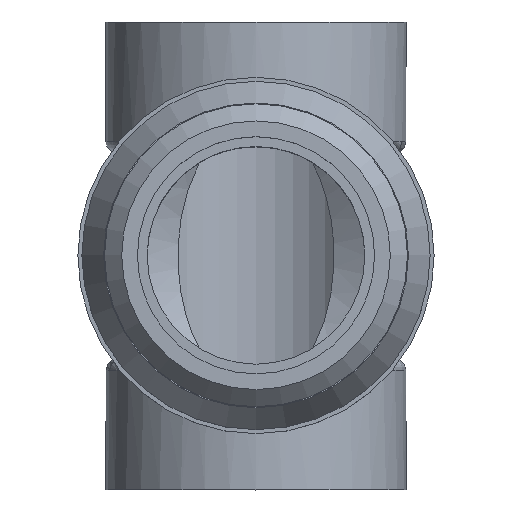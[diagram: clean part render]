
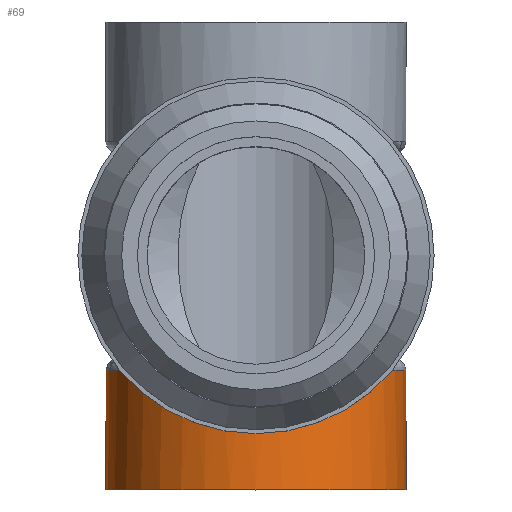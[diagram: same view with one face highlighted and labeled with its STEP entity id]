
A CAD part, top view. The second image highlights one B-rep face of the part: STEP entity #69.
In plain terms, the highlighted cylindrical face has radius 13.1 mm (diameter 26.2 mm), a full revolution.
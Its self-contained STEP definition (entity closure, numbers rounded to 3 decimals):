
#69=ADVANCED_FACE('',(#497,#499),#501,.T.);
#497=FACE_BOUND('',#498,.T.);
#498=EDGE_LOOP('',(#2106,#2107,#2108));
#499=FACE_OUTER_BOUND('',#500,.T.);
#500=EDGE_LOOP('',(#2109));
#501=CYLINDRICAL_SURFACE('',#502,13.1);
#502=AXIS2_PLACEMENT_3D('',#503,#504,#505);
#503=CARTESIAN_POINT('',(0.,-9.4,0.));
#504=DIRECTION('',(0.,-1.,0.));
#505=DIRECTION('',(0.,0.,1.));
#2106=ORIENTED_EDGE('',*,*,#3407,.F.);
#2107=ORIENTED_EDGE('',*,*,#3406,.F.);
#2108=ORIENTED_EDGE('',*,*,#3597,.T.);
#2109=ORIENTED_EDGE('',*,*,#3598,.F.);
#3406=EDGE_CURVE('',#4044,#4046,#4047,.F.);
#3407=EDGE_CURVE('',#4046,#4048,#4049,.F.);
#3597=EDGE_CURVE('',#4044,#4048,#4417,.T.);
#3598=EDGE_CURVE('',#4418,#4418,#4419,.T.);
#4044=VERTEX_POINT('',#5380);
#4046=VERTEX_POINT('',#5393);
#4047=B_SPLINE_CURVE_WITH_KNOTS('',3,
(#5394,#5395,#5396,#5397,#5398,#5399,#5400,#5401,#5402,#5403,#5404,#5405,#5406,#5407,
#5408,#5409,#5410,#5411,#5412,#5413,#5414,#5415,#5416,#5417,#5418,#5419,#5420,#5421,
#5422,#5423,#5424,#5425,#5426,#5427,#5428,#5429,#5430,#5431,#5432,#5433,#5434),
.UNSPECIFIED.,.F.,.F.,
(4,1,1,1,1,1,1,1,1,1,1,1,1,1,1,1,1,1,1,1,1,1,1,1,1,1,1,1,1,1,1,1,1,1,1,1,1,1,4),
(0.,0.027,0.054,0.081,0.108,0.135,
0.162,0.189,0.216,0.243,0.27,
0.297,0.324,0.351,0.387,0.423,
0.46,0.487,0.513,0.54,0.566,
0.593,0.618,0.644,0.669,0.694,
0.718,0.742,0.766,0.789,0.811,
0.84,0.869,0.898,0.918,0.939,
0.96,0.98,1.),
.UNSPECIFIED.);
#4048=VERTEX_POINT('',#5435);
#4049=B_SPLINE_CURVE_WITH_KNOTS('',3,
(#5436,#5437,#5438,#5439,#5440,#5441,#5442,#5443,#5444,#5445,#5446,#5447,#5448,#5449,
#5450,#5451,#5452,#5453,#5454,#5455,#5456,#5457,#5458,#5459,#5460,#5461,#5462,#5463,
#5464,#5465,#5466,#5467,#5468,#5469,#5470,#5471,#5472,#5473,#5474),
.UNSPECIFIED.,.F.,.F.,
(4,1,1,1,1,1,1,1,1,1,1,1,1,1,1,1,1,1,1,1,1,1,1,1,1,1,1,1,1,1,1,1,1,1,1,1,4),
(0.,0.015,0.031,0.048,0.066,
0.085,0.109,0.136,0.177,0.231,
0.282,0.32,0.345,0.368,0.394,
0.423,0.464,0.507,0.549,0.579,
0.607,0.632,0.656,0.681,0.705,
0.737,0.768,0.799,0.822,0.845,
0.868,0.89,0.912,0.934,0.956,
0.978,1.),
.UNSPECIFIED.);
#4417=CIRCLE('',#7421,13.1);
#4418=VERTEX_POINT('',#7425);
#4419=CIRCLE('',#7426,13.1);
#5380=CARTESIAN_POINT('',(-6.3,-9.977,11.486));
#5393=CARTESIAN_POINT('',(0.,-11.8,13.1));
#5394=CARTESIAN_POINT('',(0.,-11.8,13.1));
#5395=CARTESIAN_POINT('',(-0.062,-11.8,13.1));
#5396=CARTESIAN_POINT('',(-0.187,-11.799,13.099));
#5397=CARTESIAN_POINT('',(-0.373,-11.795,13.095));
#5398=CARTESIAN_POINT('',(-0.559,-11.787,13.089));
#5399=CARTESIAN_POINT('',(-0.745,-11.777,13.079));
#5400=CARTESIAN_POINT('',(-0.93,-11.764,13.067));
#5401=CARTESIAN_POINT('',(-1.114,-11.748,13.053));
#5402=CARTESIAN_POINT('',(-1.299,-11.729,13.036));
#5403=CARTESIAN_POINT('',(-1.482,-11.707,13.016));
#5404=CARTESIAN_POINT('',(-1.666,-11.682,12.994));
#5405=CARTESIAN_POINT('',(-1.848,-11.655,12.969));
#5406=CARTESIAN_POINT('',(-2.03,-11.625,12.942));
#5407=CARTESIAN_POINT('',(-2.211,-11.591,12.912));
#5408=CARTESIAN_POINT('',(-2.412,-11.552,12.877));
#5409=CARTESIAN_POINT('',(-2.631,-11.504,12.834));
#5410=CARTESIAN_POINT('',(-2.868,-11.447,12.783));
#5411=CARTESIAN_POINT('',(-3.084,-11.391,12.732));
#5412=CARTESIAN_POINT('',(-3.277,-11.336,12.684));
#5413=CARTESIAN_POINT('',(-3.449,-11.285,12.638));
#5414=CARTESIAN_POINT('',(-3.618,-11.232,12.591));
#5415=CARTESIAN_POINT('',(-3.785,-11.177,12.542));
#5416=CARTESIAN_POINT('',(-3.948,-11.12,12.491));
#5417=CARTESIAN_POINT('',(-4.108,-11.062,12.44));
#5418=CARTESIAN_POINT('',(-4.265,-11.003,12.387));
#5419=CARTESIAN_POINT('',(-4.419,-10.942,12.333));
#5420=CARTESIAN_POINT('',(-4.569,-10.88,12.278));
#5421=CARTESIAN_POINT('',(-4.715,-10.818,12.222));
#5422=CARTESIAN_POINT('',(-4.857,-10.755,12.167));
#5423=CARTESIAN_POINT('',(-4.994,-10.691,12.111));
#5424=CARTESIAN_POINT('',(-5.128,-10.628,12.055));
#5425=CARTESIAN_POINT('',(-5.271,-10.558,11.993));
#5426=CARTESIAN_POINT('',(-5.425,-10.48,11.925));
#5427=CARTESIAN_POINT('',(-5.587,-10.394,11.849));
#5428=CARTESIAN_POINT('',(-5.732,-10.315,11.78));
#5429=CARTESIAN_POINT('',(-5.861,-10.242,11.716));
#5430=CARTESIAN_POINT('',(-5.973,-10.177,11.659));
#5431=CARTESIAN_POINT('',(-6.084,-10.111,11.602));
#5432=CARTESIAN_POINT('',(-6.193,-10.045,11.544));
#5433=CARTESIAN_POINT('',(-6.265,-10.,11.505));
#5434=CARTESIAN_POINT('',(-6.3,-9.977,11.486));
#5435=CARTESIAN_POINT('',(6.3,-9.977,11.486));
#5436=CARTESIAN_POINT('',(6.3,-9.977,11.486));
#5437=CARTESIAN_POINT('',(6.273,-9.994,11.5));
#5438=CARTESIAN_POINT('',(6.218,-10.029,11.53));
#5439=CARTESIAN_POINT('',(6.132,-10.082,11.576));
#5440=CARTESIAN_POINT('',(6.04,-10.137,11.624));
#5441=CARTESIAN_POINT('',(5.943,-10.195,11.675));
#5442=CARTESIAN_POINT('',(5.832,-10.258,11.731));
#5443=CARTESIAN_POINT('',(5.704,-10.33,11.793));
#5444=CARTESIAN_POINT('',(5.533,-10.423,11.875));
#5445=CARTESIAN_POINT('',(5.302,-10.543,11.98));
#5446=CARTESIAN_POINT('',(5.02,-10.681,12.101));
#5447=CARTESIAN_POINT('',(4.739,-10.808,12.214));
#5448=CARTESIAN_POINT('',(4.511,-10.904,12.299));
#5449=CARTESIAN_POINT('',(4.336,-10.975,12.362));
#5450=CARTESIAN_POINT('',(4.185,-11.033,12.414));
#5451=CARTESIAN_POINT('',(4.025,-11.093,12.467));
#5452=CARTESIAN_POINT('',(3.826,-11.163,12.53));
#5453=CARTESIAN_POINT('',(3.59,-11.242,12.6));
#5454=CARTESIAN_POINT('',(3.32,-11.324,12.673));
#5455=CARTESIAN_POINT('',(3.072,-11.394,12.735));
#5456=CARTESIAN_POINT('',(2.855,-11.45,12.786));
#5457=CARTESIAN_POINT('',(2.675,-11.493,12.824));
#5458=CARTESIAN_POINT('',(2.506,-11.531,12.858));
#5459=CARTESIAN_POINT('',(2.343,-11.565,12.889));
#5460=CARTESIAN_POINT('',(2.18,-11.597,12.918));
#5461=CARTESIAN_POINT('',(2.,-11.63,12.947));
#5462=CARTESIAN_POINT('',(1.804,-11.662,12.976));
#5463=CARTESIAN_POINT('',(1.591,-11.693,13.004));
#5464=CARTESIAN_POINT('',(1.397,-11.718,13.026));
#5465=CARTESIAN_POINT('',(1.222,-11.737,13.043));
#5466=CARTESIAN_POINT('',(1.066,-11.752,13.057));
#5467=CARTESIAN_POINT('',(0.911,-11.765,13.069));
#5468=CARTESIAN_POINT('',(0.758,-11.776,13.078));
#5469=CARTESIAN_POINT('',(0.605,-11.785,13.086));
#5470=CARTESIAN_POINT('',(0.453,-11.792,13.092));
#5471=CARTESIAN_POINT('',(0.301,-11.796,13.097));
#5472=CARTESIAN_POINT('',(0.151,-11.799,13.099));
#5473=CARTESIAN_POINT('',(0.05,-11.8,13.1));
#5474=CARTESIAN_POINT('',(0.,-11.8,13.1));
#7421=AXIS2_PLACEMENT_3D('',#7422,#7423,#7424);
#7422=CARTESIAN_POINT('',(0.,-9.977,0.));
#7423=DIRECTION('',(0.,-1.,0.));
#7424=DIRECTION('',(-0.481,0.,0.877));
#7425=CARTESIAN_POINT('',(0.,-20.4,13.1));
#7426=AXIS2_PLACEMENT_3D('',#7427,#7428,#7429);
#7427=CARTESIAN_POINT('',(0.,-20.4,0.));
#7428=DIRECTION('',(0.,-1.,0.));
#7429=DIRECTION('',(0.,0.,1.));
